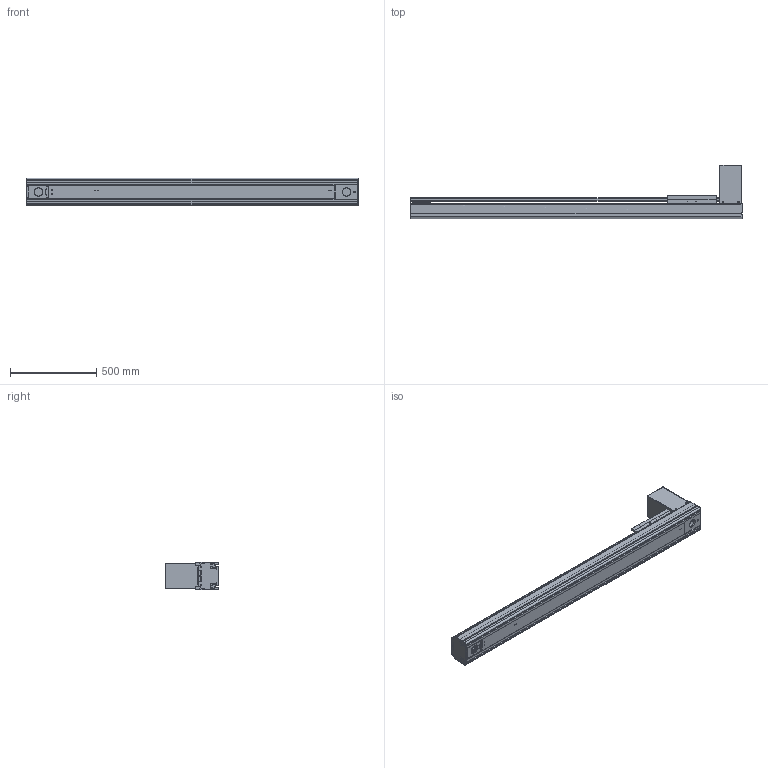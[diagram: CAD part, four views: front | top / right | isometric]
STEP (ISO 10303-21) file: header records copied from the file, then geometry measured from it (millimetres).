
FILE_DESCRIPTION((''),'2;1');
FILE_NAME('BE50G-BT-L19N-D5_IGS_PRT','2017-06-18T',(' '),(''),'PRO/ENGINEER BY PARAMETRIC TECHNOLOGY CORPORATION, 2015030','PRO/ENGINEER BY PARAMETRIC TECHNOLOGY CORPORATION, 2015030','');
FILE_SCHEMA(('CONFIG_CONTROL_DESIGN'));
Products named in the file (1): BE50G-BT-L19N-D5_IGS_PRT
Bounding box: 1920 x 309 x 160 mm (x, y, z)
Volume: 7695556.9 mm3; surface area: 3529900.8 mm2
Topology: 9 solids, 158 shells, 1967 faces, 5553 edges, 3696 vertices
Faces by surface type: cylinder 993, plane 785, cone 146, sphere 23, torus 20
Entity records: 66467 total; most frequent: CARTESIAN_POINT 14759, DIRECTION 10863, ORIENTED_EDGE 10370, EDGE_CURVE 5479, AXIS2_PLACEMENT_3D 4068, VERTEX_POINT 3696, VECTOR 2727, LINE 2727
